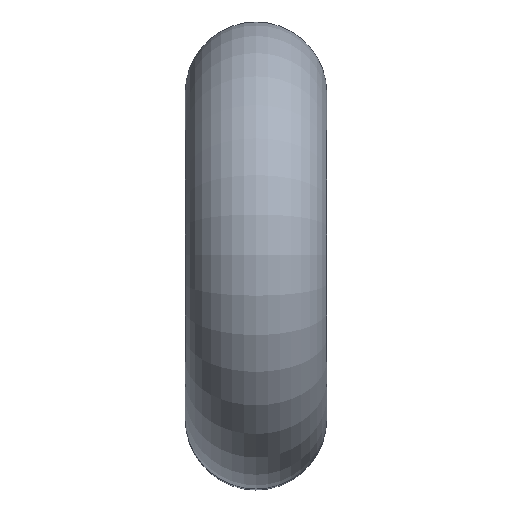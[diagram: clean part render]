
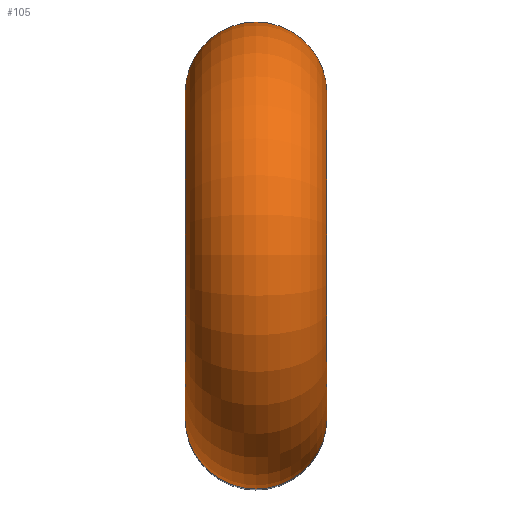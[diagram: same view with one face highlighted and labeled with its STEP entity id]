
A CAD part, top view. The second image highlights one B-rep face of the part: STEP entity #105.
In plain terms, the highlighted toroidal (fillet/blend) face has major radius 9.2 mm and minor radius 4 mm.
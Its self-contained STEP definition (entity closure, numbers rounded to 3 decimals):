
#24 = VERTEX_POINT('',#25);
#25 = CARTESIAN_POINT('',(2.307,-5.2,621.04));
#32 = CYLINDRICAL_SURFACE('',#33,4.);
#33 = AXIS2_PLACEMENT_3D('',#34,#35,#36);
#34 = CARTESIAN_POINT('',(2.307,-9.2,586.64));
#35 = DIRECTION('',(0.,0.,1.));
#36 = DIRECTION('',(0.,1.,0.));
#51 = EDGE_CURVE('',#24,#24,#52,.T.);
#52 = SURFACE_CURVE('',#53,(#58,#65),.PCURVE_S1.);
#53 = CIRCLE('',#54,4.);
#54 = AXIS2_PLACEMENT_3D('',#55,#56,#57);
#55 = CARTESIAN_POINT('',(2.307,-9.2,621.04));
#56 = DIRECTION('',(0.,-0.,1.));
#57 = DIRECTION('',(0.,1.,0.));
#58 = PCURVE('',#32,#59);
#59 = DEFINITIONAL_REPRESENTATION('',(#60),#64);
#60 = LINE('',#61,#62);
#61 = CARTESIAN_POINT('',(0.,34.4));
#62 = VECTOR('',#63,1.);
#63 = DIRECTION('',(1.,0.));
#64 = ( GEOMETRIC_REPRESENTATION_CONTEXT(2) 
PARAMETRIC_REPRESENTATION_CONTEXT() REPRESENTATION_CONTEXT('2D SPACE',''
  ) );
#65 = PCURVE('',#66,#71);
#66 = TOROIDAL_SURFACE('',#67,9.2,4.);
#67 = AXIS2_PLACEMENT_3D('',#68,#69,#70);
#68 = CARTESIAN_POINT('',(2.307,0.,621.04));
#69 = DIRECTION('',(-1.,0.,0.));
#70 = DIRECTION('',(0.,-1.,0.));
#71 = DEFINITIONAL_REPRESENTATION('',(#72),#76);
#72 = LINE('',#73,#74);
#73 = CARTESIAN_POINT('',(0.,9.425));
#74 = VECTOR('',#75,1.);
#75 = DIRECTION('',(-0.,-1.));
#76 = ( GEOMETRIC_REPRESENTATION_CONTEXT(2) 
PARAMETRIC_REPRESENTATION_CONTEXT() REPRESENTATION_CONTEXT('2D SPACE',''
  ) );
#105 = ADVANCED_FACE('',(#106),#66,.T.);
#106 = FACE_BOUND('',#107,.T.);
#107 = EDGE_LOOP('',(#108,#132,#159,#160));
#108 = ORIENTED_EDGE('',*,*,#109,.T.);
#109 = EDGE_CURVE('',#24,#110,#112,.T.);
#110 = VERTEX_POINT('',#111);
#111 = CARTESIAN_POINT('',(2.307,5.2,621.04));
#112 = SEAM_CURVE('',#113,(#118,#125),.PCURVE_S1.);
#113 = CIRCLE('',#114,5.2);
#114 = AXIS2_PLACEMENT_3D('',#115,#116,#117);
#115 = CARTESIAN_POINT('',(2.307,0.,621.04));
#116 = DIRECTION('',(-1.,0.,0.));
#117 = DIRECTION('',(0.,-1.,0.));
#118 = PCURVE('',#66,#119);
#119 = DEFINITIONAL_REPRESENTATION('',(#120),#124);
#120 = LINE('',#121,#122);
#121 = CARTESIAN_POINT('',(0.,3.142));
#122 = VECTOR('',#123,1.);
#123 = DIRECTION('',(1.,0.));
#124 = ( GEOMETRIC_REPRESENTATION_CONTEXT(2) 
PARAMETRIC_REPRESENTATION_CONTEXT() REPRESENTATION_CONTEXT('2D SPACE',''
  ) );
#125 = PCURVE('',#66,#126);
#126 = DEFINITIONAL_REPRESENTATION('',(#127),#131);
#127 = LINE('',#128,#129);
#128 = CARTESIAN_POINT('',(0.,9.425));
#129 = VECTOR('',#130,1.);
#130 = DIRECTION('',(1.,0.));
#131 = ( GEOMETRIC_REPRESENTATION_CONTEXT(2) 
PARAMETRIC_REPRESENTATION_CONTEXT() REPRESENTATION_CONTEXT('2D SPACE',''
  ) );
#132 = ORIENTED_EDGE('',*,*,#133,.T.);
#133 = EDGE_CURVE('',#110,#110,#134,.T.);
#134 = SURFACE_CURVE('',#135,(#140,#147),.PCURVE_S1.);
#135 = CIRCLE('',#136,4.);
#136 = AXIS2_PLACEMENT_3D('',#137,#138,#139);
#137 = CARTESIAN_POINT('',(2.307,9.2,621.04));
#138 = DIRECTION('',(0.,0.,1.));
#139 = DIRECTION('',(0.,1.,0.));
#140 = PCURVE('',#66,#141);
#141 = DEFINITIONAL_REPRESENTATION('',(#142),#146);
#142 = LINE('',#143,#144);
#143 = CARTESIAN_POINT('',(3.142,0.));
#144 = VECTOR('',#145,1.);
#145 = DIRECTION('',(0.,1.));
#146 = ( GEOMETRIC_REPRESENTATION_CONTEXT(2) 
PARAMETRIC_REPRESENTATION_CONTEXT() REPRESENTATION_CONTEXT('2D SPACE',''
  ) );
#147 = PCURVE('',#148,#153);
#148 = CYLINDRICAL_SURFACE('',#149,4.);
#149 = AXIS2_PLACEMENT_3D('',#150,#151,#152);
#150 = CARTESIAN_POINT('',(2.307,9.2,621.04));
#151 = DIRECTION('',(0.,0.,-1.));
#152 = DIRECTION('',(0.,-1.,0.));
#153 = DEFINITIONAL_REPRESENTATION('',(#154),#158);
#154 = LINE('',#155,#156);
#155 = CARTESIAN_POINT('',(9.425,0.));
#156 = VECTOR('',#157,1.);
#157 = DIRECTION('',(-1.,-0.));
#158 = ( GEOMETRIC_REPRESENTATION_CONTEXT(2) 
PARAMETRIC_REPRESENTATION_CONTEXT() REPRESENTATION_CONTEXT('2D SPACE',''
  ) );
#159 = ORIENTED_EDGE('',*,*,#109,.F.);
#160 = ORIENTED_EDGE('',*,*,#51,.T.);
